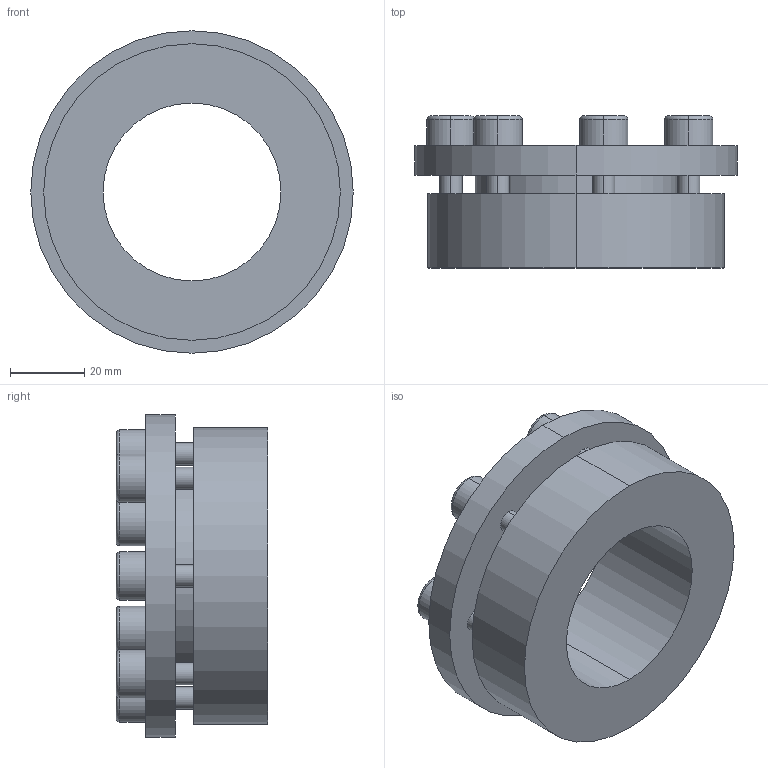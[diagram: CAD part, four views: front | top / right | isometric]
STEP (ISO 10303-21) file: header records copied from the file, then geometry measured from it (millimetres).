
FILE_DESCRIPTION (( 'STEP AP203' ), '1' );
FILE_NAME ('PL-H4 48-80.STEP', '2021-10-23T01:21:32', ( '' ), ( '' ), 'SwSTEP 2.0', 'SolidWorks 2018', '' );
FILE_SCHEMA (( 'CONFIG_CONTROL_DESIGN' ));
Length unit declared in the file: millimetre
Products named in the file (1): PL-H4 48-80
Bounding box: 87 x 41 x 87 mm (x, y, z)
Volume: 107484.8 mm3; surface area: 29725.8 mm2
Topology: 1 solids, 1 shells, 110 faces, 262 edges, 170 vertices
Faces by surface type: plane 60, cylinder 36, torus 14
Entity records: 3303 total; most frequent: DIRECTION 584, CARTESIAN_POINT 543, ORIENTED_EDGE 524, EDGE_CURVE 262, AXIS2_PLACEMENT_3D 211, VERTEX_POINT 170, LINE 162, VECTOR 162
